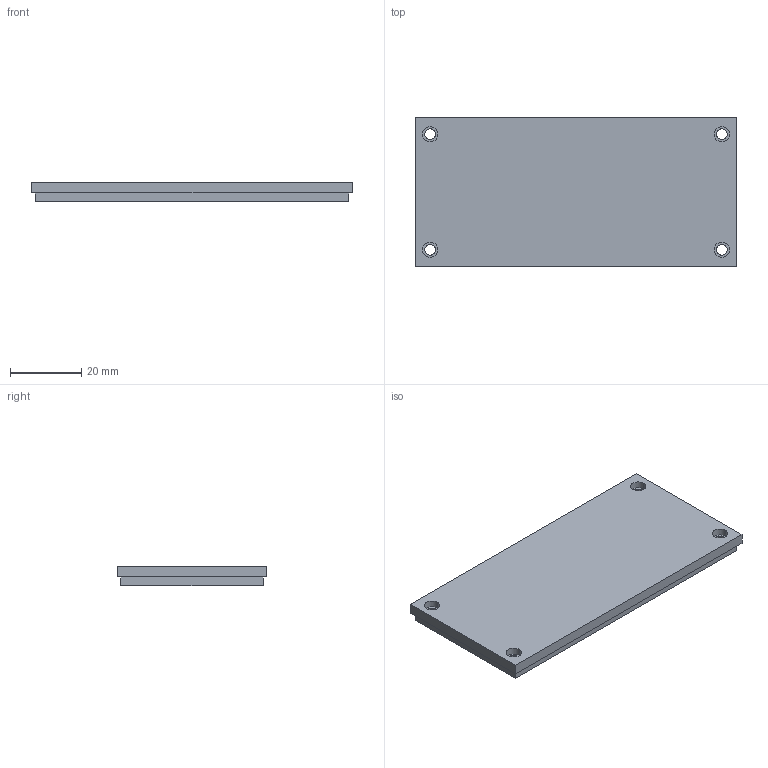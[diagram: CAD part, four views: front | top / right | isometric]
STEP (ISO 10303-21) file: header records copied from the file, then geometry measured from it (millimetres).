
FILE_DESCRIPTION (( 'STEP AP214' ), '1' );
FILE_NAME ('Tapa negre PP10.STEP', '2017-07-19T09:07:07', ( 'aaa' ), ( '' ), 'SwSTEP 2.0', 'SolidWorks 2013', '' );
FILE_SCHEMA (( 'AUTOMOTIVE_DESIGN' ));
Length unit declared in the file: millimetre
Products named in the file (1): Tapa negre PP10
Bounding box: 90 x 42 x 5.5 mm (x, y, z)
Volume: 12208.3 mm3; surface area: 9787.7 mm2
Topology: 1 solids, 1 shells, 54 faces, 142 edges, 92 vertices
Faces by surface type: plane 28, cylinder 26
Entity records: 1724 total; most frequent: DIRECTION 304, CARTESIAN_POINT 289, ORIENTED_EDGE 284, EDGE_CURVE 142, AXIS2_PLACEMENT_3D 107, VERTEX_POINT 92, LINE 90, VECTOR 90
